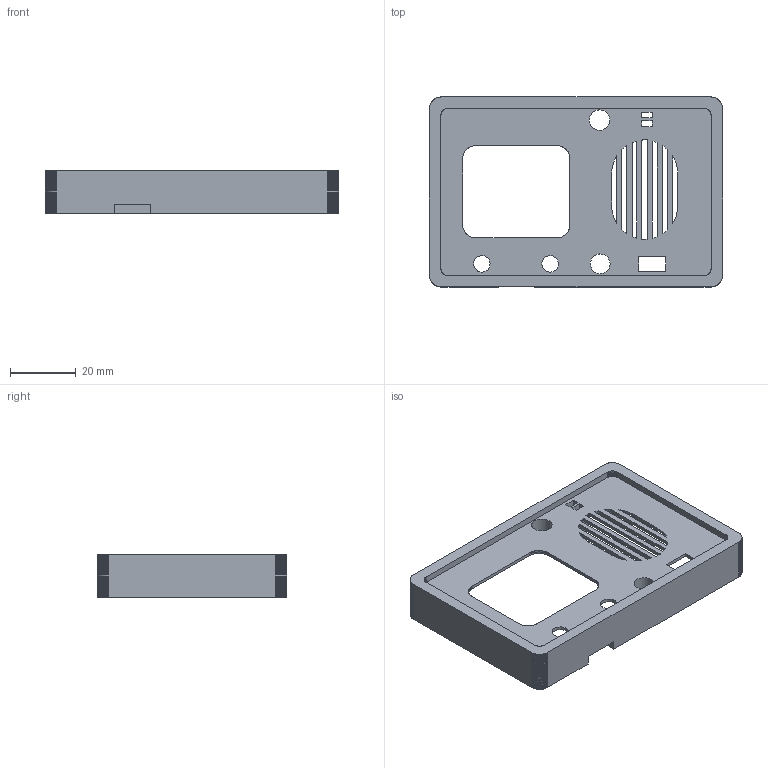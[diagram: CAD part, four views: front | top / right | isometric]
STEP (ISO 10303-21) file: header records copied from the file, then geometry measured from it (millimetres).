
FILE_DESCRIPTION(('Designed by EasyEDA Pro'),'2;1');
FILE_NAME('Open CASCADE Shape Model','2025-12-08T20:20:30',('Author'),( 'Open CASCADE'),'Open CASCADE STEP processor 7.8','Open CASCADE 7.8' ,'Unknown');
FILE_SCHEMA(('AUTOMOTIVE_DESIGN { 1 0 10303 214 1 1 1 1 }'));
Products named in the file (1): Open CASCADE STEP translator 7.8 1
Bounding box: 89 x 57.68 x 13 mm (x, y, z)
Volume: 15297.8 mm3; surface area: 17260.2 mm2
Topology: 1 solids, 1 shells, 672 faces, 1986 edges, 1324 vertices
Faces by surface type: bspline 672
Entity records: 48166 total; most frequent: CARTESIAN_POINT 22349, B_SPLINE_CURVE_WITH_KNOTS 5838, ORIENTED_EDGE 3972, PCURVE 3972, DEFINITIONAL_REPRESENTATION 3972, EDGE_CURVE 1986, SURFACE_CURVE 1972, VERTEX_POINT 1324
